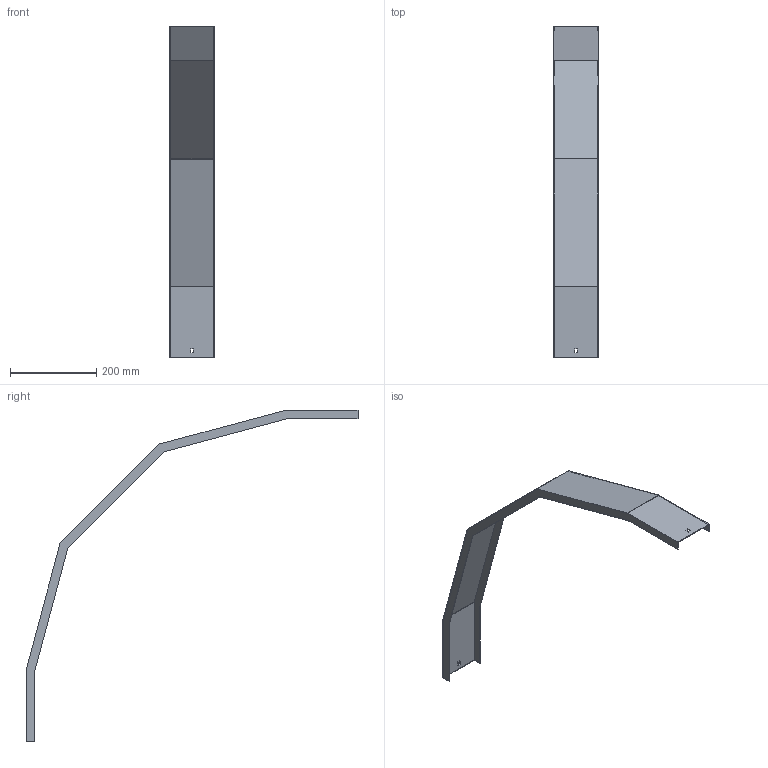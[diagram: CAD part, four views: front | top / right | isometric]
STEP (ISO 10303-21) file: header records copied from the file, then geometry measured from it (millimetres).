
FILE_DESCRIPTION (( 'STEP AP214' ), '1' );
FILE_NAME ('33N5D100.step', '2025-02-21T10:43:10', ( '' ), ( '' ), 'SwSTEP 2.0', 'SolidWorks 2023', '' );
FILE_SCHEMA (( 'AUTOMOTIVE_DESIGN' ));
Length unit declared in the file: millimetre
Products named in the file (1): 33N5D100
Bounding box: 103 x 769.82 x 769.82 mm (x, y, z)
Volume: 264958.9 mm3; surface area: 357503.2 mm2
Topology: 1 solids, 1 shells, 34 faces, 96 edges, 64 vertices
Faces by surface type: plane 34
Entity records: 1111 total; most frequent: CARTESIAN_POINT 195, ORIENTED_EDGE 192, DIRECTION 166, EDGE_CURVE 96, LINE 96, VECTOR 96, VERTEX_POINT 64, EDGE_LOOP 38
